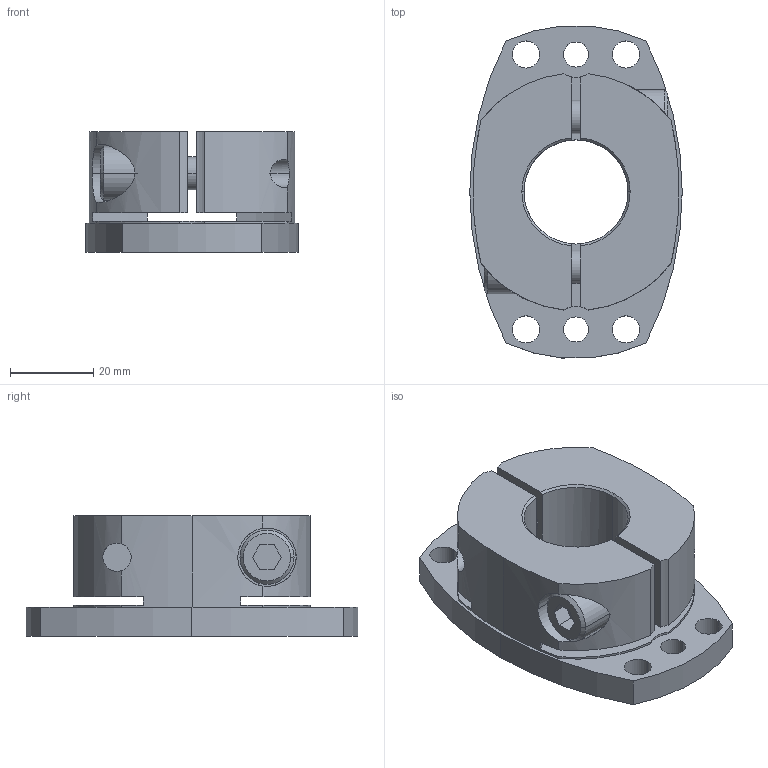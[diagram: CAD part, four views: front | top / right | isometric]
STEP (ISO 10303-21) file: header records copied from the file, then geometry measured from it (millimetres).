
FILE_DESCRIPTION((''),'2;1');
FILE_NAME('SHDB-80B-25.stp','2026-01-28T08:27:55',(''),(''),'AutoCAD STEP 2000i','AutoCAD 2000i',', , ');
FILE_SCHEMA(('CONFIG_CONTROL_DESIGN'));
Length unit declared in the file: millimetre
Products named in the file (2): SHDB-80B-20; 忣兜1
Assembly tree (1 placements, depth 2):
  SHDB-80B-20
    忣兜1
Bounding box: 51 x 79.7 x 29 mm (x, y, z)
Volume: 55984.3 mm3; surface area: 19244.9 mm2
Topology: 1 solids, 1 shells, 102 faces, 280 edges, 184 vertices
Faces by surface type: cylinder 58, plane 34, cone 10
Entity records: 3715 total; most frequent: CARTESIAN_POINT 888, DIRECTION 602, ORIENTED_EDGE 560, EDGE_CURVE 280, AXIS2_PLACEMENT_3D 238, VERTEX_POINT 184, CIRCLE 134, VECTOR 126
